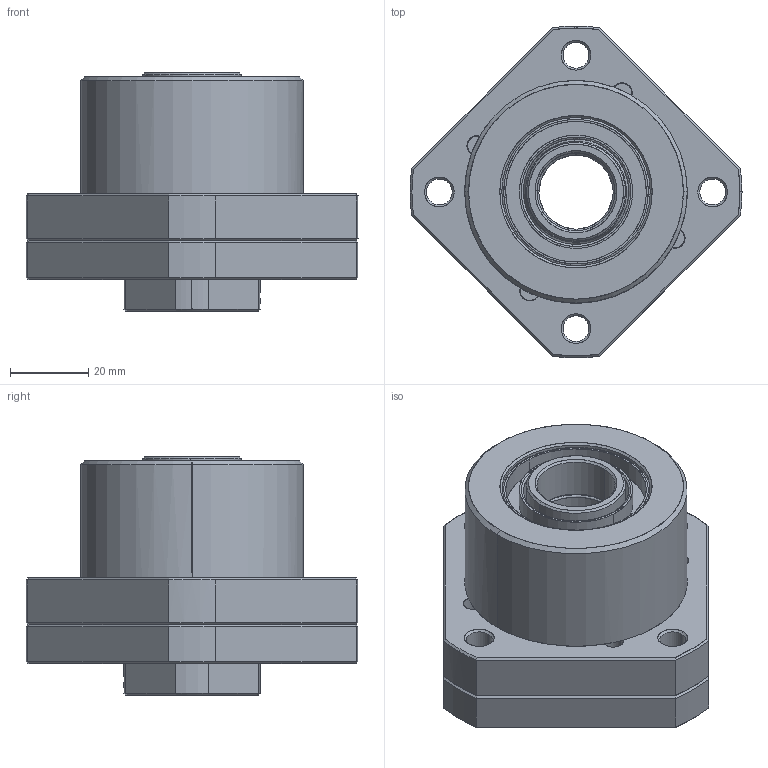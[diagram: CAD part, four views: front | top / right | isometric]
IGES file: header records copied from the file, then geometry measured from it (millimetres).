
Start section: SolidWorks IGES file using analytic representation for surfaces
Bounding box: 85 x 84.9 x 61 mm (x, y, z)
Surface area: 76375.6 mm2 (no closed solid volume)
Topology: 0 solids, 0 shells, 678 faces, 12878 edges, 12804 vertices
Faces by surface type: revolution 424, bspline 254
